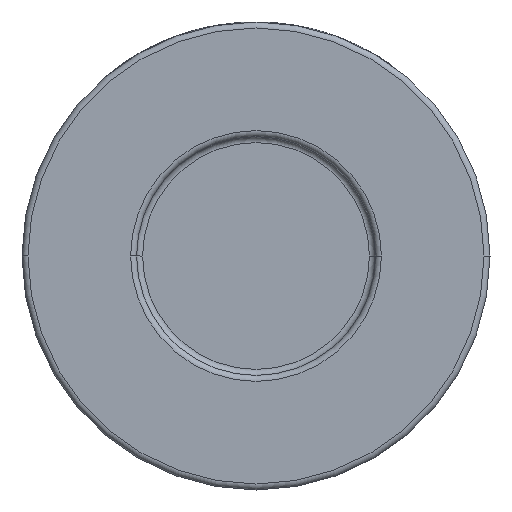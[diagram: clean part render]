
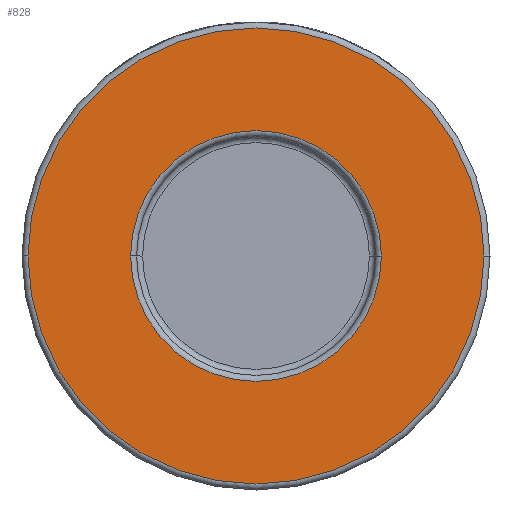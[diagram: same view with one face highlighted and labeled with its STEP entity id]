
A CAD part, front view. The second image highlights one B-rep face of the part: STEP entity #828.
In plain terms, the highlighted planar face has unit normal (0, -1, 0).
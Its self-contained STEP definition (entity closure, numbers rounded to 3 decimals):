
#73 = DIRECTION ( 'NONE',  ( 1., 0., 0. ) ) ;
#75 = DIRECTION ( 'NONE',  ( 1., 0., 0. ) ) ;
#177 = CARTESIAN_POINT ( 'NONE',  ( 0., -26., 0. ) ) ;
#445 = DIRECTION ( 'NONE',  ( 0., 1., 0. ) ) ;
#633 = CARTESIAN_POINT ( 'NONE',  ( 0., -26., 0. ) ) ;
#828 = ADVANCED_FACE ( 'NONE', ( #2477, #1812 ), #3258, .T. ) ;
#980 = DIRECTION ( 'NONE',  ( 0., -1., 0. ) ) ;
#1438 = CIRCLE ( 'NONE', #2495, 38. ) ;
#1531 = AXIS2_PLACEMENT_3D ( 'NONE', #633, #980, #3825 ) ;
#1592 = DIRECTION ( 'NONE',  ( 0., 1., 0. ) ) ;
#1631 = EDGE_LOOP ( 'NONE', ( #2270, #3714 ) ) ;
#1656 = EDGE_CURVE ( 'NONE', #4302, #1861, #3845, .T. ) ;
#1732 = CARTESIAN_POINT ( 'NONE',  ( -20.9, -26., 0. ) ) ;
#1812 = FACE_OUTER_BOUND ( 'NONE', #1631, .T. ) ;
#1861 = VERTEX_POINT ( 'NONE', #1732 ) ;
#2061 = EDGE_CURVE ( 'NONE', #3409, #2107, #2429, .T. ) ;
#2107 = VERTEX_POINT ( 'NONE', #3720 ) ;
#2123 = CARTESIAN_POINT ( 'NONE',  ( 39., -26., 0. ) ) ;
#2157 = CARTESIAN_POINT ( 'NONE',  ( 20.9, -26., 0. ) ) ;
#2168 = DIRECTION ( 'NONE',  ( 0., -1., 0. ) ) ;
#2242 = ORIENTED_EDGE ( 'NONE', *, *, #4178, .T. ) ;
#2270 = ORIENTED_EDGE ( 'NONE', *, *, #2061, .T. ) ;
#2368 = DIRECTION ( 'NONE',  ( 1., 0., 0. ) ) ;
#2393 = EDGE_LOOP ( 'NONE', ( #4027, #2242 ) ) ;
#2429 = CIRCLE ( 'NONE', #1531, 38. ) ;
#2477 = FACE_BOUND ( 'NONE', #2393, .T. ) ;
#2495 = AXIS2_PLACEMENT_3D ( 'NONE', #2774, #4218, #4148 ) ;
#2563 = AXIS2_PLACEMENT_3D ( 'NONE', #177, #1592, #2368 ) ;
#2774 = CARTESIAN_POINT ( 'NONE',  ( 0., -26., 0. ) ) ;
#2997 = CIRCLE ( 'NONE', #2563, 20.9 ) ;
#3258 = PLANE ( 'NONE',  #3704 ) ;
#3409 = VERTEX_POINT ( 'NONE', #4146 ) ;
#3704 = AXIS2_PLACEMENT_3D ( 'NONE', #2123, #2168, #75 ) ;
#3714 = ORIENTED_EDGE ( 'NONE', *, *, #4611, .T. ) ;
#3720 = CARTESIAN_POINT ( 'NONE',  ( -38., -26., 0. ) ) ;
#3825 = DIRECTION ( 'NONE',  ( 1., 0., 0. ) ) ;
#3845 = CIRCLE ( 'NONE', #4379, 20.9 ) ;
#3993 = CARTESIAN_POINT ( 'NONE',  ( 0., -26., 0. ) ) ;
#4027 = ORIENTED_EDGE ( 'NONE', *, *, #1656, .T. ) ;
#4146 = CARTESIAN_POINT ( 'NONE',  ( 38., -26., 0. ) ) ;
#4148 = DIRECTION ( 'NONE',  ( 1., 0., 0. ) ) ;
#4178 = EDGE_CURVE ( 'NONE', #1861, #4302, #2997, .T. ) ;
#4218 = DIRECTION ( 'NONE',  ( 0., -1., 0. ) ) ;
#4302 = VERTEX_POINT ( 'NONE', #2157 ) ;
#4379 = AXIS2_PLACEMENT_3D ( 'NONE', #3993, #445, #73 ) ;
#4611 = EDGE_CURVE ( 'NONE', #2107, #3409, #1438, .T. ) ;
